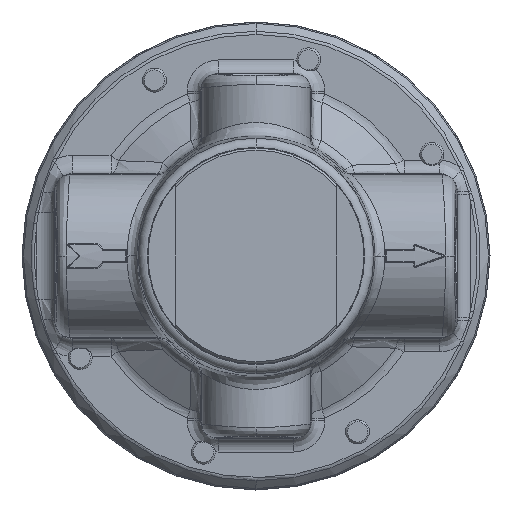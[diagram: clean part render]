
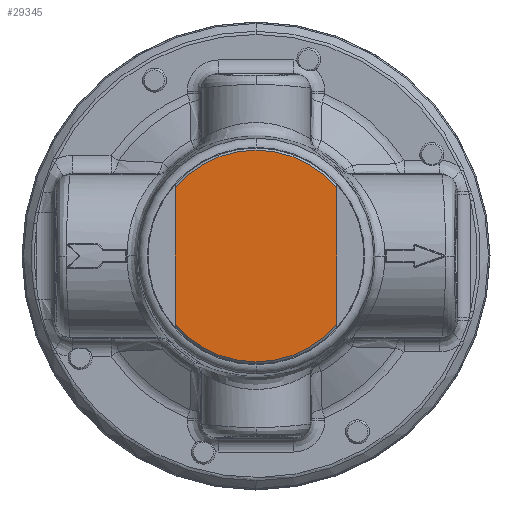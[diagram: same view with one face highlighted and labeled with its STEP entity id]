
A CAD part, front view. The second image highlights one B-rep face of the part: STEP entity #29345.
In plain terms, the highlighted planar face has unit normal (0, -1, 0).
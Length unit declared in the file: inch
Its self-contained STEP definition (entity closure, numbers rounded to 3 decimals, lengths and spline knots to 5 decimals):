
#7425 = EDGE_LOOP ( 'NONE', ( #41063, #41065, #41067, #41069 ) ) ;
#8943 = CARTESIAN_POINT ( 'NONE',  ( -0.55875, -1.906, -0.47366 ) ) ;
#11899 = CIRCLE ( 'NONE', #11943, 0.7325 ) ;
#11939 = VECTOR ( 'NONE', #38629, 39.37008 ) ;
#11941 = VECTOR ( 'NONE', #38634, 39.37008 ) ;
#11943 = AXIS2_PLACEMENT_3D ( 'NONE', #38631, #38632, #38633 ) ;
#11944 = CIRCLE ( 'NONE', #11946, 0.7325 ) ;
#11946 = AXIS2_PLACEMENT_3D ( 'NONE', #38635, #38636, #38637 ) ;
#14868 = VERTEX_POINT ( 'NONE', #8943 ) ;
#15045 = VERTEX_POINT ( 'NONE', #35877 ) ;
#15117 = VERTEX_POINT ( 'NONE', #35949 ) ;
#15219 = VERTEX_POINT ( 'NONE', #36051 ) ;
#26059 = AXIS2_PLACEMENT_3D ( 'NONE', #28051, #28057, #28058 ) ;
#28051 = CARTESIAN_POINT ( 'NONE',  ( 0., -1.906, 0. ) ) ;
#28053 = FACE_OUTER_BOUND ( 'NONE', #7425, .T. ) ;
#28054 = PLANE ( 'NONE',  #26059 ) ;
#28057 = DIRECTION ( 'NONE',  ( 0., -1., 0. ) ) ;
#28058 = DIRECTION ( 'NONE',  ( 1., 0., 0. ) ) ;
#29345 = ADVANCED_FACE ( 'NONE', ( #28053 ), #28054, .T. ) ;
#30732 = EDGE_CURVE ( 'NONE', #14868, #15219, #38620, .T. ) ;
#30733 = EDGE_CURVE ( 'NONE', #14868, #15045, #11899, .T. ) ;
#30734 = EDGE_CURVE ( 'NONE', #15045, #15117, #38630, .T. ) ;
#30735 = EDGE_CURVE ( 'NONE', #15117, #15219, #11944, .T. ) ;
#35877 = CARTESIAN_POINT ( 'NONE',  ( 0.55875, -1.906, -0.47366 ) ) ;
#35949 = CARTESIAN_POINT ( 'NONE',  ( 0.55875, -1.906, 0.47366 ) ) ;
#36051 = CARTESIAN_POINT ( 'NONE',  ( -0.55875, -1.906, 0.47366 ) ) ;
#38620 = LINE ( 'NONE', #38621, #11939 ) ;
#38621 = CARTESIAN_POINT ( 'NONE',  ( -0.55875, -1.906, 0. ) ) ;
#38628 = CARTESIAN_POINT ( 'NONE',  ( 0.55875, -1.906, 0. ) ) ;
#38629 = DIRECTION ( 'NONE',  ( 0., 0., 1. ) ) ;
#38630 = LINE ( 'NONE', #38628, #11941 ) ;
#38631 = CARTESIAN_POINT ( 'NONE',  ( 0., -1.906, 0. ) ) ;
#38632 = DIRECTION ( 'NONE',  ( 0., -1., 0. ) ) ;
#38633 = DIRECTION ( 'NONE',  ( 1., 0., 0. ) ) ;
#38634 = DIRECTION ( 'NONE',  ( 0., 0., 1. ) ) ;
#38635 = CARTESIAN_POINT ( 'NONE',  ( 0., -1.906, 0. ) ) ;
#38636 = DIRECTION ( 'NONE',  ( 0., -1., 0. ) ) ;
#38637 = DIRECTION ( 'NONE',  ( 1., 0., 0. ) ) ;
#41063 = ORIENTED_EDGE ( 'NONE', *, *, #30732, .F. ) ;
#41065 = ORIENTED_EDGE ( 'NONE', *, *, #30733, .T. ) ;
#41067 = ORIENTED_EDGE ( 'NONE', *, *, #30734, .T. ) ;
#41069 = ORIENTED_EDGE ( 'NONE', *, *, #30735, .T. ) ;
